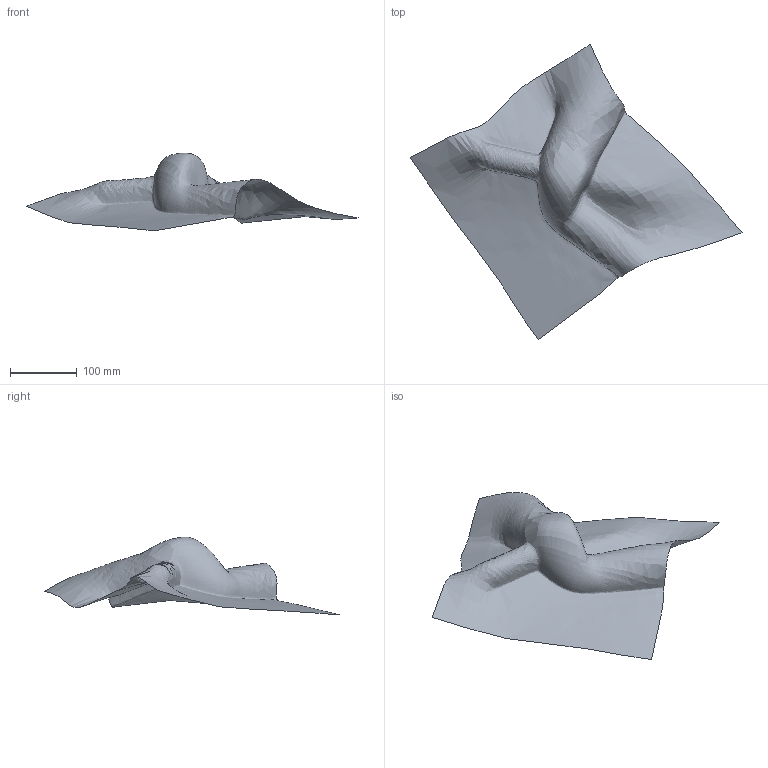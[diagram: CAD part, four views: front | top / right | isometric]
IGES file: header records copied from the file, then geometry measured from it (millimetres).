
Global section: file name: D:\my_data\RhinoResurf(1.0)\RhinoResurf; native system: Rhinoceros ( Jun  6 2003 ); preprocessor: Trout Lake IGES 012 Jun  6 2003; date: 071101.145126; units: millimetre
Bounding box: 496.13 x 441.37 x 116.2 mm (x, y, z)
Surface area: 137636.6 mm2 (no closed solid volume)
Topology: 0 solids, 0 shells, 1 faces, 4 edges, 4 vertices
Faces by surface type: bspline 1
